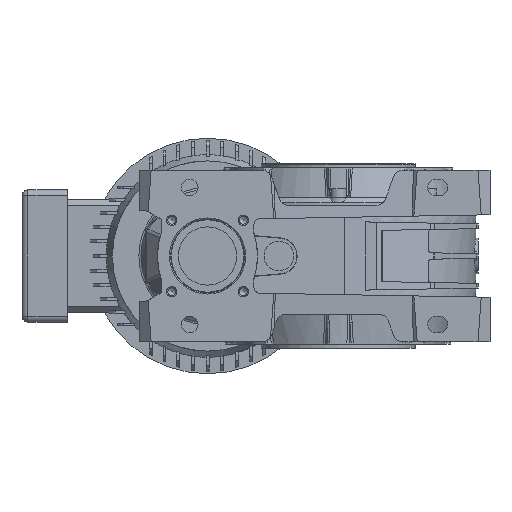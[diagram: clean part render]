
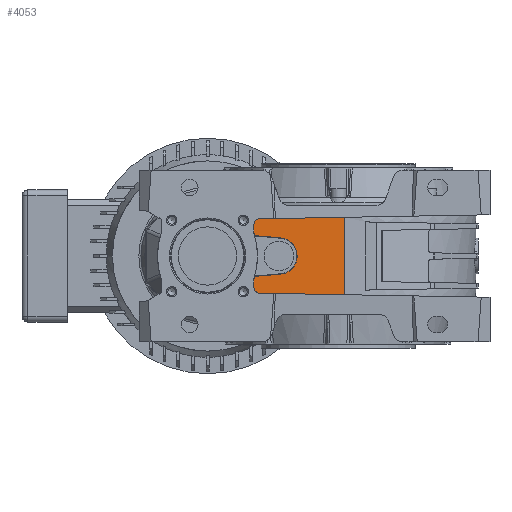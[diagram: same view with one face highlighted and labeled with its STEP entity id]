
A CAD part, left-side view. The second image highlights one B-rep face of the part: STEP entity #4053.
In plain terms, the highlighted planar face has unit normal (-0.999, -0.044, 0).
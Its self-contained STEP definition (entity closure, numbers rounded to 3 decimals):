
#4053 = ADVANCED_FACE( '', ( #8670 ), #8671, .F. );
#8670 = FACE_OUTER_BOUND( '', #16874, .T. );
#8671 = PLANE( '', #16875 );
#16874 = EDGE_LOOP( '', ( #29122, #29123, #29124, #29125, #29126, #29127, #29128, #29129, #29130, #29131, #29132, #29133 ) );
#16875 = AXIS2_PLACEMENT_3D( '', #29134, #29135, #29136 );
#29122 = ORIENTED_EDGE( '', *, *, #36657, .F. );
#29123 = ORIENTED_EDGE( '', *, *, #32911, .T. );
#29124 = ORIENTED_EDGE( '', *, *, #36658, .F. );
#29125 = ORIENTED_EDGE( '', *, *, #32936, .F. );
#29126 = ORIENTED_EDGE( '', *, *, #36567, .F. );
#29127 = ORIENTED_EDGE( '', *, *, #36486, .F. );
#29128 = ORIENTED_EDGE( '', *, *, #33897, .F. );
#29129 = ORIENTED_EDGE( '', *, *, #32932, .F. );
#29130 = ORIENTED_EDGE( '', *, *, #32405, .T. );
#29131 = ORIENTED_EDGE( '', *, *, #33959, .T. );
#29132 = ORIENTED_EDGE( '', *, *, #35614, .F. );
#29133 = ORIENTED_EDGE( '', *, *, #34723, .T. );
#29134 = CARTESIAN_POINT( '', ( -115.39, -5.038, -44. ) );
#29135 = DIRECTION( '', ( 0.999, 0.044, 0. ) );
#29136 = DIRECTION( '', ( 0.044, -0.999, 0. ) );
#32405 = EDGE_CURVE( '', #38305, #38303, #38306, .T. );
#32911 = EDGE_CURVE( '', #39162, #39166, #39168, .F. );
#32932 = EDGE_CURVE( '', #38305, #39204, #39205, .F. );
#32936 = EDGE_CURVE( '', #39210, #39212, #39213, .F. );
#33897 = EDGE_CURVE( '', #39204, #40772, #40773, .F. );
#33959 = EDGE_CURVE( '', #38303, #40868, #40870, .F. );
#34723 = EDGE_CURVE( '', #42036, #42040, #42042, .T. );
#35614 = EDGE_CURVE( '', #42036, #40868, #43289, .F. );
#36486 = EDGE_CURVE( '', #40772, #44369, #44370, .F. );
#36567 = EDGE_CURVE( '', #44369, #39210, #44463, .F. );
#36657 = EDGE_CURVE( '', #39162, #42040, #44564, .F. );
#36658 = EDGE_CURVE( '', #39212, #39166, #44565, .T. );
#38303 = VERTEX_POINT( '', #47255 );
#38305 = VERTEX_POINT( '', #47258 );
#38306 = LINE( '', #47259, #47260 );
#39162 = VERTEX_POINT( '', #48964 );
#39166 = VERTEX_POINT( '', #48969 );
#39168 = ELLIPSE( '', #48972, 5.005, 5. );
#39204 = VERTEX_POINT( '', #49062 );
#39205 = ELLIPSE( '', #49063, 63.06, 63. );
#39210 = VERTEX_POINT( '', #49068 );
#39212 = VERTEX_POINT( '', #49070 );
#39213 = ELLIPSE( '', #49071, 63.06, 63. );
#40772 = VERTEX_POINT( '', #53616 );
#40773 = LINE( '', #53617, #53618 );
#40868 = VERTEX_POINT( '', #53792 );
#40870 = ELLIPSE( '', #53795, 5.005, 5. );
#42036 = VERTEX_POINT( '', #56465 );
#42040 = VERTEX_POINT( '', #56469 );
#42042 = LINE( '', #56471, #56472 );
#43289 = LINE( '', #60059, #60060 );
#44369 = VERTEX_POINT( '', #62164 );
#44370 = ELLIPSE( '', #62165, 15.353, 15.338 );
#44463 = LINE( '', #62305, #62306 );
#44564 = LINE( '', #62477, #62478 );
#44565 = LINE( '', #62479, #62480 );
#47255 = CARTESIAN_POINT( '', ( -118.71, 71., -26.296 ) );
#47258 = CARTESIAN_POINT( '', ( -118.71, 71., -19.209 ) );
#47259 = CARTESIAN_POINT( '', ( -118.71, 71., -44. ) );
#47260 = VECTOR( '', #64170, 1000. );
#48964 = CARTESIAN_POINT( '', ( -118.495, 66.087, 31.295 ) );
#48969 = CARTESIAN_POINT( '', ( -118.71, 71., 26.296 ) );
#48972 = AXIS2_PLACEMENT_3D( '', #64688, #64689, #64690 );
#49062 = CARTESIAN_POINT( '', ( -118.683, 70.374, -17.133 ) );
#49063 = AXIS2_PLACEMENT_3D( '', #64708, #64709, #64710 );
#49068 = CARTESIAN_POINT( '', ( -118.683, 70.374, 17.133 ) );
#49070 = CARTESIAN_POINT( '', ( -118.71, 71., 19.209 ) );
#49071 = AXIS2_PLACEMENT_3D( '', #64720, #64721, #64722 );
#53616 = CARTESIAN_POINT( '', ( -117.735, 48.663, -15.283 ) );
#53617 = CARTESIAN_POINT( '', ( -115.513, -2.228, -10.948 ) );
#53618 = VECTOR( '', #65662, 1000. );
#53792 = CARTESIAN_POINT( '', ( -118.495, 66.087, -31.295 ) );
#53795 = AXIS2_PLACEMENT_3D( '', #65737, #65738, #65739 );
#56465 = CARTESIAN_POINT( '', ( -115.39, -5.038, -32.537 ) );
#56469 = CARTESIAN_POINT( '', ( -115.39, -5.038, 32.537 ) );
#56471 = CARTESIAN_POINT( '', ( -115.39, -5.038, -44. ) );
#56472 = VECTOR( '', #66560, 1000. );
#60059 = CARTESIAN_POINT( '', ( -115.381, -5.238, -32.54 ) );
#60060 = VECTOR( '', #67499, 1000. );
#62164 = CARTESIAN_POINT( '', ( -117.735, 48.663, 15.283 ) );
#62165 = AXIS2_PLACEMENT_3D( '', #68234, #68235, #68236 );
#62305 = CARTESIAN_POINT( '', ( -115.188, -9.656, 10.315 ) );
#62306 = VECTOR( '', #68294, 1000. );
#62477 = CARTESIAN_POINT( '', ( -115.448, -3.705, 32.514 ) );
#62478 = VECTOR( '', #68351, 1000. );
#62479 = CARTESIAN_POINT( '', ( -118.71, 71., -44. ) );
#62480 = VECTOR( '', #68352, 1000. );
#64170 = DIRECTION( '', ( 0., 0., -1. ) );
#64688 = CARTESIAN_POINT( '', ( -118.492, 66., 26.296 ) );
#64689 = DIRECTION( '', ( 0.999, 0.044, 0. ) );
#64690 = DIRECTION( '', ( 0.044, -0.999, 0. ) );
#64708 = CARTESIAN_POINT( '', ( -121.33, 131., 0. ) );
#64709 = DIRECTION( '', ( 0.999, 0.044, 0. ) );
#64710 = DIRECTION( '', ( 0.044, -0.999, 0. ) );
#64720 = CARTESIAN_POINT( '', ( -121.33, 131., 0. ) );
#64721 = DIRECTION( '', ( 0.999, 0.044, 0. ) );
#64722 = DIRECTION( '', ( 0.044, -0.999, 0. ) );
#65662 = DIRECTION( '', ( -0.043, 0.995, -0.085 ) );
#65737 = CARTESIAN_POINT( '', ( -118.492, 66., -26.296 ) );
#65738 = DIRECTION( '', ( 0.999, 0.044, 0. ) );
#65739 = DIRECTION( '', ( 0.044, -0.999, 0. ) );
#66560 = DIRECTION( '', ( 0., 0., 1. ) );
#67499 = DIRECTION( '', ( 0.044, -0.999, -0.017 ) );
#68234 = CARTESIAN_POINT( '', ( -117.792, 49.965, 0. ) );
#68235 = DIRECTION( '', ( 0.999, 0.044, 0. ) );
#68236 = DIRECTION( '', ( 0.044, -0.999, 0. ) );
#68294 = DIRECTION( '', ( 0.043, -0.995, -0.085 ) );
#68351 = DIRECTION( '', ( -0.044, 0.999, -0.017 ) );
#68352 = DIRECTION( '', ( 0., 0., 1. ) );
